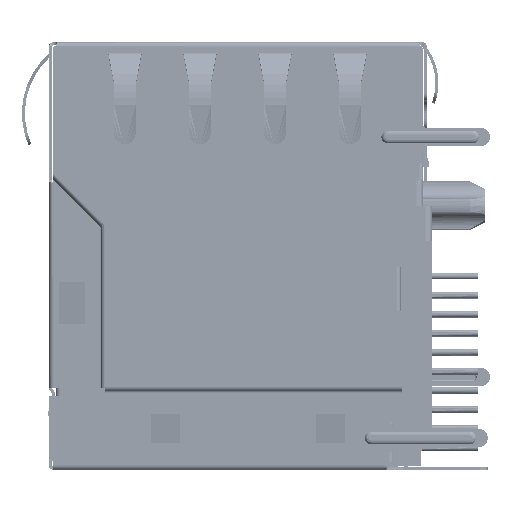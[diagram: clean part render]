
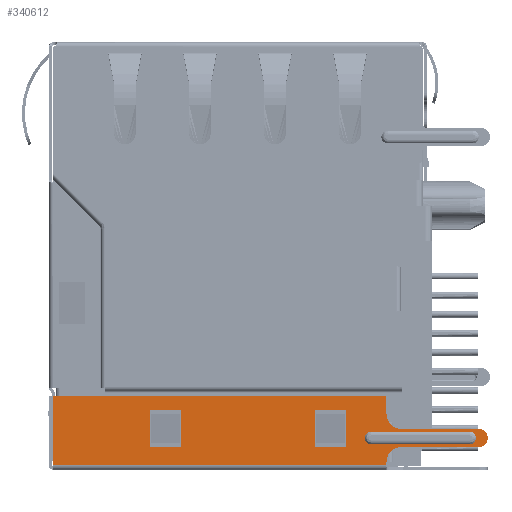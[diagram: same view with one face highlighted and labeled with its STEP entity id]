
A CAD part, left-side view. The second image highlights one B-rep face of the part: STEP entity #340612.
In plain terms, the highlighted planar face has unit normal (-1, 0, 0).
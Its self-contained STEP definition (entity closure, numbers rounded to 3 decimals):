
#125936=DIRECTION('',(0.,0.,1.));
#125937=VECTOR('',#125936,0.22);
#125938=CARTESIAN_POINT('',(-43.54,-22.25,-27.95));
#125939=LINE('',#125938,#125937);
#125965=DIRECTION('',(0.,-1.,0.));
#125966=VECTOR('',#125965,22.2);
#125967=CARTESIAN_POINT('',(-43.54,-0.05,-27.95));
#125968=LINE('',#125967,#125966);
#125969=CARTESIAN_POINT('',(-43.54,-23.25,-27.73));
#125970=DIRECTION('',(-1.,0.,0.));
#125971=DIRECTION('',(0.,0.,1.));
#125972=AXIS2_PLACEMENT_3D('',#125969,#125970,#125971);
#125974=DIRECTION('',(0.,0.,1.));
#125975=VECTOR('',#125974,4.63);
#125976=CARTESIAN_POINT('',(-43.54,-0.05,-27.95));
#125977=LINE('',#125976,#125975);
#125978=DIRECTION('',(0.,-1.,0.));
#125979=VECTOR('',#125978,22.2);
#125980=CARTESIAN_POINT('',(-43.54,-0.05,-23.32));
#125981=LINE('',#125980,#125979);
#125982=CARTESIAN_POINT('',(-43.54,-23.25,-24.53));
#125983=DIRECTION('',(-1.,0.,0.));
#125984=DIRECTION('',(0.,1.,0.));
#125985=AXIS2_PLACEMENT_3D('',#125982,#125983,#125984);
#125987=CARTESIAN_POINT('',(-43.54,-28.4,-26.13));
#125988=DIRECTION('',(1.,0.,0.));
#125989=DIRECTION('',(0.,0.,1.));
#125990=AXIS2_PLACEMENT_3D('',#125987,#125988,#125989);
#125992=DIRECTION('',(0.,0.,1.));
#125993=VECTOR('',#125992,2.5);
#125994=CARTESIAN_POINT('',(-43.54,-19.571,-26.76));
#125995=LINE('',#125994,#125993);
#125996=DIRECTION('',(0.,1.,0.));
#125997=VECTOR('',#125996,2.1);
#125998=CARTESIAN_POINT('',(-43.54,-19.571,-24.26));
#125999=LINE('',#125998,#125997);
#126000=DIRECTION('',(0.,0.,-1.));
#126001=VECTOR('',#126000,2.5);
#126002=CARTESIAN_POINT('',(-43.54,-17.471,-24.26));
#126003=LINE('',#126002,#126001);
#126004=DIRECTION('',(0.,-1.,0.));
#126005=VECTOR('',#126004,2.1);
#126006=CARTESIAN_POINT('',(-43.54,-17.471,-26.76));
#126007=LINE('',#126006,#126005);
#126008=CARTESIAN_POINT('',(-43.54,-21.24,-26.13));
#126009=DIRECTION('',(-1.,0.,0.));
#126010=DIRECTION('',(0.,0.,
1.));
#126011=AXIS2_PLACEMENT_3D('',#126008,#126009,#126010);
#126013=CARTESIAN_POINT('',(-43.54,-27.79,-26.13));
#126014=DIRECTION('',(-1.,0.,0.));
#126015=DIRECTION('',(0.,0.,-1.));
#126016=AXIS2_PLACEMENT_3D('',#126013,#126014,#126015);
#126018=DIRECTION('',(0.,0.,1.));
#126019=VECTOR('',#126018,2.5);
#126020=CARTESIAN_POINT('',(-43.54,-8.571,-26.76));
#126021=LINE('',#126020,#126019);
#126022=DIRECTION('',(0.,1.,0.));
#126023=VECTOR('',#126022,2.1);
#126024=CARTESIAN_POINT('',(-43.54,-8.571,-24.26));
#126025=LINE('',#126024,#126023);
#126026=DIRECTION('',(0.,0.,-1.));
#126027=VECTOR('',#126026,2.5);
#126028=CARTESIAN_POINT('',(-43.54,-6.471,-24.26));
#126029=LINE('',#126028,#126027);
#126030=DIRECTION('',(0.,-1.,0.));
#126031=VECTOR('',#126030,2.1);
#126032=CARTESIAN_POINT('',(-43.54,-6.471,-26.76));
#126033=LINE('',#126032,#126031);
#126038=DIRECTION('',(0.,-1.,0.));
#126039=VECTOR('',#126038,5.15);
#126040=CARTESIAN_POINT('',(-43.54,-23.25,-26.73));
#126041=LINE('',#126040,#126039);
#126145=DIRECTION('',(0.,1.,0.));
#126146=VECTOR('',#126145,5.15);
#126147=CARTESIAN_POINT('',(-43.54,-28.4,-25.53));
#126148=LINE('',#126147,#126146);
#126157=DIRECTION('',(0.,0.,1.));
#126158=VECTOR('',#126157,1.21);
#126159=CARTESIAN_POINT('',(-43.54,-22.25,-24.53));
#126160=LINE('',#126159,#126158);
#126355=DIRECTION('',(0.,-1.,0.));
#126356=VECTOR('',#126355,6.55);
#126357=CARTESIAN_POINT('',(-43.54,-21.24,
-25.704));
#126358=LINE('',#126357,#126356);
#126373=DIRECTION('',(0.,1.,0.));
#126374=VECTOR('',#126373,6.55);
#126375=CARTESIAN_POINT('',(-43.54,-27.79,
-26.556));
#126376=LINE('',#126375,#126374);
#162201=CARTESIAN_POINT('',(-43.54,-22.25,-27.95));
#162202=VERTEX_POINT('',#162201);
#162203=CARTESIAN_POINT('',(-43.54,-22.25,-27.73));
#162204=VERTEX_POINT('',#162203);
#162209=CARTESIAN_POINT('',(-43.54,-0.05,-27.95));
#162210=VERTEX_POINT('',#162209);
#162215=CARTESIAN_POINT('',(-43.54,-0.05,-23.32));
#162216=VERTEX_POINT('',#162215);
#162265=CARTESIAN_POINT('',(-43.54,-23.25,-26.73));
#162266=VERTEX_POINT('',#162265);
#162267=CARTESIAN_POINT('',(-43.54,-28.4,-26.73));
#162268=VERTEX_POINT('',#162267);
#162269=CARTESIAN_POINT('',(-43.54,-22.25,-23.32));
#162270=VERTEX_POINT('',#162269);
#162271=CARTESIAN_POINT('',(-43.54,-22.25,-24.53));
#162272=VERTEX_POINT('',#162271);
#162273=CARTESIAN_POINT('',(-43.54,-23.25,-25.53));
#162274=VERTEX_POINT('',#162273);
#162275=CARTESIAN_POINT('',(-43.54,-28.4,-25.53));
#162276=VERTEX_POINT('',#162275);
#162277=CARTESIAN_POINT('',(-43.54,-19.571,-26.76));
#162278=CARTESIAN_POINT('',(-43.54,-19.571,-24.26));
#162279=VERTEX_POINT('',#162277);
#162280=VERTEX_POINT('',#162278);
#162281=CARTESIAN_POINT('',(-43.54,-17.471,-24.26));
#162282=VERTEX_POINT('',#162281);
#162283=CARTESIAN_POINT('',(-43.54,-17.471,-26.76));
#162284=VERTEX_POINT('',#162283);
#162285=CARTESIAN_POINT('',(-43.54,-21.24,
-25.704));
#162286=CARTESIAN_POINT('',(-43.54,-21.24,
-26.556));
#162287=VERTEX_POINT('',#162285);
#162288=VERTEX_POINT('',#162286);
#162289=CARTESIAN_POINT('',(-43.54,-27.79,
-26.556));
#162290=VERTEX_POINT('',#162289);
#162291=CARTESIAN_POINT('',(-43.54,-27.79,
-25.704));
#162292=VERTEX_POINT('',#162291);
#162293=CARTESIAN_POINT('',(-43.54,-8.571,-26.76));
#162294=CARTESIAN_POINT('',(-43.54,-8.571,-24.26));
#162295=VERTEX_POINT('',#162293);
#162296=VERTEX_POINT('',#162294);
#162297=CARTESIAN_POINT('',(-43.54,-6.471,-24.26));
#162298=VERTEX_POINT('',#162297);
#162299=CARTESIAN_POINT('',(-43.54,-6.471,-26.76));
#162300=VERTEX_POINT('',#162299);
#340558=CARTESIAN_POINT('',(-43.54,-14.526,-25.635));
#340559=DIRECTION('',(1.,0.,0.));
#340560=DIRECTION('',(0.,1.,0.));
#340561=AXIS2_PLACEMENT_3D('',#340558,#340559,#340560);
#340562=PLANE('',#340561);
#340564=ORIENTED_EDGE('',*,*,#340563,.F.);
#340566=ORIENTED_EDGE('',*,*,#340565,.T.);
#340567=ORIENTED_EDGE('',*,*,#340522,.F.);
#340568=ORIENTED_EDGE('',*,*,#340553,.F.);
#340569=ORIENTED_EDGE('',*,*,#340489,.T.);
#340571=ORIENTED_EDGE('',*,*,#340570,.T.);
#340573=ORIENTED_EDGE('',*,*,#340572,.F.);
#340575=ORIENTED_EDGE('',*,*,#340574,.T.);
#340577=ORIENTED_EDGE('',*,*,#340576,.F.);
#340579=ORIENTED_EDGE('',*,*,#340578,.T.);
#340580=EDGE_LOOP('',(#340564,#340566,#340567,#340568,#340569,#340571,#340573,
#340575,#340577,#340579));
#340581=FACE_OUTER_BOUND('',#340580,.F.);
#340583=ORIENTED_EDGE('',*,*,#340582,.T.);
#340585=ORIENTED_EDGE('',*,*,#340584,.T.);
#340587=ORIENTED_EDGE('',*,*,#340586,.T.);
#340589=ORIENTED_EDGE('',*,*,#340588,.T.);
#340590=EDGE_LOOP('',(#340583,#340585,#340587,#340589));
#340591=FACE_BOUND('',#340590,.F.);
#340593=ORIENTED_EDGE('',*,*,#340592,.T.);
#340595=ORIENTED_EDGE('',*,*,#340594,.F.);
#340597=ORIENTED_EDGE('',*,*,#340596,.T.);
#340599=ORIENTED_EDGE('',*,*,#340598,.F.);
#340600=EDGE_LOOP('',(#340593,#340595,#340597,#340599));
#340601=FACE_BOUND('',#340600,.F.);
#340603=ORIENTED_EDGE('',*,*,#340602,.T.);
#340605=ORIENTED_EDGE('',*,*,#340604,.T.);
#340607=ORIENTED_EDGE('',*,*,#340606,.T.);
#340609=ORIENTED_EDGE('',*,*,#340608,.T.);
#340610=EDGE_LOOP('',(#340603,#340605,#340607,#340609));
#340611=FACE_BOUND('',#340610,.F.);
#340612=ADVANCED_FACE('',(#340581,#340591,#340601,#340611),#340562,.F.);
#125973=CIRCLE('',#125972,1.);
#125986=CIRCLE('',#125985,1.);
#125991=CIRCLE('',#125990,0.6);
#126012=CIRCLE('',#126011,0.426);
#126017=CIRCLE('',#126016,0.426);
#340489=EDGE_CURVE('',#162210,#162216,#125977,.T.);
#340522=EDGE_CURVE('',#162202,#162204,#125939,.T.);
#340553=EDGE_CURVE('',#162210,#162202,#125968,.T.);
#340563=EDGE_CURVE('',#162266,#162268,#126041,.T.);
#340565=EDGE_CURVE('',#162266,#162204,#125973,.T.);
#340570=EDGE_CURVE('',#162216,#162270,#125981,.T.);
#340572=EDGE_CURVE('',#162272,#162270,#126160,.T.);
#340574=EDGE_CURVE('',#162272,#162274,#125986,.T.);
#340576=EDGE_CURVE('',#162276,#162274,#126148,.T.);
#340578=EDGE_CURVE('',#162276,#162268,#125991,.T.);
#340582=EDGE_CURVE('',#162279,#162280,#125995,.T.);
#340584=EDGE_CURVE('',#162280,#162282,#125999,.T.);
#340586=EDGE_CURVE('',#162282,#162284,#126003,.T.);
#340588=EDGE_CURVE('',#162284,#162279,#126007,.T.);
#340592=EDGE_CURVE('',#162287,#162288,#126012,.T.);
#340594=EDGE_CURVE('',#162290,#162288,#126376,.T.);
#340596=EDGE_CURVE('',#162290,#162292,#126017,.T.);
#340598=EDGE_CURVE('',#162287,#162292,#126358,.T.);
#340602=EDGE_CURVE('',#162295,#162296,#126021,.T.);
#340604=EDGE_CURVE('',#162296,#162298,#126025,.T.);
#340606=EDGE_CURVE('',#162298,#162300,#126029,.T.);
#340608=EDGE_CURVE('',#162300,#162295,#126033,.T.);
